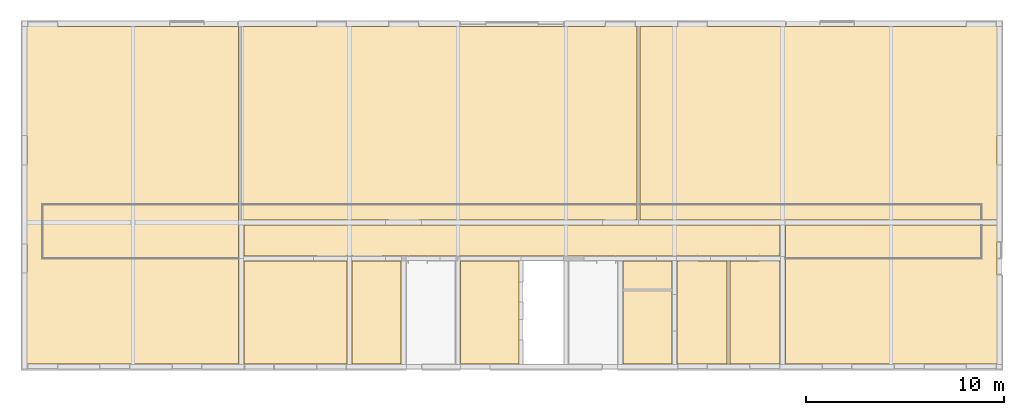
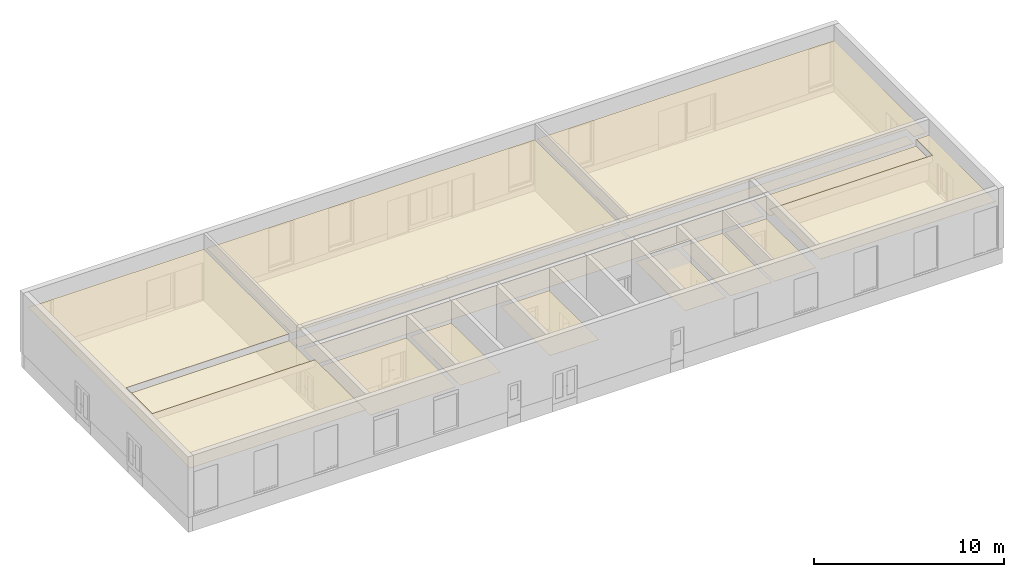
# One storey, part 22 of 22: 15 coverings.
"""IFC4X3 building model written with IfcOpenShell, lengths in millimetres."""

from ifc_helpers import new_model, entity, si_unit, converted_unit, derived_unit, direction, frame, frame_2d, origin, origin_2d_with_axis, place, context, subcontext, project, spatial, polyline, rectangle, outline, extrude, material, layer, layer_set, layer_usage, type_object, element, save


model = new_model("IFC4X3")

# Units and contexts
model_context = context("Model", 3, precision=0.01, world=origin(), true_north=direction((6.12303176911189e-17, 1.0)))
body_context = subcontext(model_context, "Body", "Model", "MODEL_VIEW")
ifc_project = project(units=[si_unit("LENGTHUNIT", "METRE", prefix="MILLI"), si_unit("AREAUNIT", "SQUARE_METRE"), si_unit("VOLUMEUNIT", "CUBIC_METRE"), converted_unit("PLANEANGLEUNIT", "DEGREE", entity("IfcPlaneAngleMeasure", 0.0174532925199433), si_unit("PLANEANGLEUNIT", "RADIAN"), dimensions=[0, 0, 0, 0, 0, 0, 0]), si_unit("MASSUNIT", "GRAM", prefix="KILO"), derived_unit("MASSDENSITYUNIT", [(si_unit("MASSUNIT", "GRAM", prefix="KILO"), 1), (si_unit("LENGTHUNIT", "METRE"), -3)]), derived_unit("IONCONCENTRATIONUNIT", [(si_unit("MASSUNIT", "GRAM", prefix="KILO"), 1), (si_unit("LENGTHUNIT", "METRE"), -3)]), derived_unit("MOMENTOFINERTIAUNIT", [(si_unit("LENGTHUNIT", "METRE"), 4)]), si_unit("TIMEUNIT", "SECOND"), si_unit("FREQUENCYUNIT", "HERTZ"), si_unit("THERMODYNAMICTEMPERATUREUNIT", "DEGREE_CELSIUS"), derived_unit("THERMALTRANSMITTANCEUNIT", [(si_unit("MASSUNIT", "GRAM", prefix="KILO"), 1), (si_unit("THERMODYNAMICTEMPERATUREUNIT", "KELVIN"), -1), (si_unit("TIMEUNIT", "SECOND"), -3)]), derived_unit("THERMALCONDUCTANCEUNIT", [(si_unit("MASSUNIT", "GRAM", prefix="KILO"), 1), (si_unit("THERMODYNAMICTEMPERATUREUNIT", "KELVIN"), -1), (si_unit("TIMEUNIT", "SECOND"), -3), (si_unit("LENGTHUNIT", "METRE"), 1)]), derived_unit("VOLUMETRICFLOWRATEUNIT", [(si_unit("LENGTHUNIT", "METRE", prefix="DECI"), 3), (si_unit("TIMEUNIT", "SECOND"), -1)]), derived_unit("MASSFLOWRATEUNIT", [(si_unit("MASSUNIT", "GRAM", prefix="KILO"), 1), (si_unit("TIMEUNIT", "SECOND"), -1)]), derived_unit("ROTATIONALFREQUENCYUNIT", [(si_unit("TIMEUNIT", "SECOND"), -1)]), si_unit("ELECTRICCURRENTUNIT", "AMPERE"), si_unit("ELECTRICVOLTAGEUNIT", "VOLT"), si_unit("POWERUNIT", "WATT"), si_unit("FORCEUNIT", "NEWTON", prefix="KILO"), si_unit("ILLUMINANCEUNIT", "LUX"), si_unit("LUMINOUSFLUXUNIT", "LUMEN"), si_unit("LUMINOUSINTENSITYUNIT", "CANDELA"), si_unit("ENERGYUNIT", "JOULE"), derived_unit("USERDEFINED", [(si_unit("MASSUNIT", "GRAM", prefix="KILO"), -1), (si_unit("LENGTHUNIT", "METRE"), -2), (si_unit("TIMEUNIT", "SECOND"), 3), (si_unit("LUMINOUSFLUXUNIT", "LUMEN"), 1)]), derived_unit("USERDEFINED", [(si_unit("MASSUNIT", "GRAM", prefix="KILO"), 1), (si_unit("TIMEUNIT", "SECOND"), -3), (si_unit("LENGTHUNIT", "METRE"), 3), (si_unit("ELECTRICCURRENTUNIT", "AMPERE"), -2)]), derived_unit("SOUNDPOWERUNIT", [(si_unit("MASSUNIT", "GRAM", prefix="KILO"), 1), (si_unit("TIMEUNIT", "SECOND"), -3), (si_unit("LENGTHUNIT", "METRE"), 2)]), derived_unit("SOUNDPRESSUREUNIT", [(si_unit("MASSUNIT", "GRAM", prefix="KILO"), 1), (si_unit("LENGTHUNIT", "METRE"), -1), (si_unit("TIMEUNIT", "SECOND"), -2)]), derived_unit("LINEARVELOCITYUNIT", [(si_unit("LENGTHUNIT", "METRE"), 1), (si_unit("TIMEUNIT", "SECOND"), -1)]), si_unit("PRESSUREUNIT", "PASCAL"), derived_unit("USERDEFINED", [(si_unit("MASSUNIT", "GRAM", prefix="KILO"), 1), (si_unit("LENGTHUNIT", "METRE"), -2), (si_unit("TIMEUNIT", "SECOND"), -2)]), derived_unit("LINEARFORCEUNIT", [(si_unit("MASSUNIT", "GRAM", prefix="KILO"), 1), (si_unit("TIMEUNIT", "SECOND"), -2)]), derived_unit("PLANARFORCEUNIT", [(si_unit("MASSUNIT", "GRAM", prefix="KILO"), 1), (si_unit("LENGTHUNIT", "METRE"), -1), (si_unit("TIMEUNIT", "SECOND"), -2)]), derived_unit("SPECIFICHEATCAPACITYUNIT", [(si_unit("THERMODYNAMICTEMPERATUREUNIT", "KELVIN"), -1), (si_unit("LENGTHUNIT", "METRE"), 2), (si_unit("TIMEUNIT", "SECOND"), -2)]), derived_unit("HEATFLUXDENSITYUNIT", [(si_unit("MASSUNIT", "GRAM", prefix="KILO"), 1), (si_unit("TIMEUNIT", "SECOND"), -3)]), derived_unit("HEATINGVALUEUNIT", [(si_unit("LENGTHUNIT", "METRE"), 2), (si_unit("TIMEUNIT", "SECOND"), -2)]), derived_unit("VAPORPERMEABILITYUNIT", [(si_unit("LENGTHUNIT", "METRE"), -1), (si_unit("TIMEUNIT", "SECOND"), 1)]), derived_unit("DYNAMICVISCOSITYUNIT", [(si_unit("MASSUNIT", "GRAM", prefix="KILO"), 1), (si_unit("TIMEUNIT", "SECOND"), -1), (si_unit("LENGTHUNIT", "METRE"), -1)]), derived_unit("THERMALEXPANSIONCOEFFICIENTUNIT", [(si_unit("THERMODYNAMICTEMPERATUREUNIT", "KELVIN"), -1)]), derived_unit("MODULUSOFELASTICITYUNIT", [(si_unit("MASSUNIT", "GRAM", prefix="KILO"), 1), (si_unit("LENGTHUNIT", "METRE"), -1), (si_unit("TIMEUNIT", "SECOND"), -2)]), derived_unit("ISOTHERMALMOISTURECAPACITYUNIT", [(si_unit("MASSUNIT", "GRAM", prefix="KILO"), -1), (si_unit("LENGTHUNIT", "METRE"), 3)]), derived_unit("MOISTUREDIFFUSIVITYUNIT", [(si_unit("TIMEUNIT", "SECOND"), -1), (si_unit("LENGTHUNIT", "METRE"), 2)]), derived_unit("AREADENSITYUNIT", [(si_unit("MASSUNIT", "GRAM", prefix="KILO"), 1), (si_unit("LENGTHUNIT", "METRE"), 2)]), derived_unit("MASSPERLENGTHUNIT", [(si_unit("MASSUNIT", "GRAM", prefix="KILO"), 1), (si_unit("LENGTHUNIT", "METRE"), -1)]), derived_unit("THERMALRESISTANCEUNIT", [(si_unit("MASSUNIT", "GRAM", prefix="KILO"), -1), (si_unit("TIMEUNIT", "SECOND"), 3), (si_unit("THERMODYNAMICTEMPERATUREUNIT", "KELVIN"), 1)]), derived_unit("ACCELERATIONUNIT", [(si_unit("LENGTHUNIT", "METRE"), 1), (si_unit("TIMEUNIT", "SECOND"), -2)]), derived_unit("ANGULARVELOCITYUNIT", [(si_unit("TIMEUNIT", "SECOND"), -1), (si_unit("PLANEANGLEUNIT", "RADIAN"), 1)]), derived_unit("LINEARSTIFFNESSUNIT", [(si_unit("MASSUNIT", "GRAM", prefix="KILO"), 1), (si_unit("TIMEUNIT", "SECOND"), -2)]), derived_unit("WARPINGCONSTANTUNIT", [(si_unit("LENGTHUNIT", "METRE"), 6)]), derived_unit("LINEARMOMENTUNIT", [(si_unit("MASSUNIT", "GRAM", prefix="KILO"), 1), (si_unit("LENGTHUNIT", "METRE"), 1), (si_unit("TIMEUNIT", "SECOND"), -2)]), derived_unit("TORQUEUNIT", [(si_unit("MASSUNIT", "GRAM", prefix="KILO"), 1), (si_unit("LENGTHUNIT", "METRE"), 2), (si_unit("TIMEUNIT", "SECOND"), -2)])], contexts=[model_context])

# Site, building, storey
site_placement = place(None, origin())
site = spatial("IfcSite", under=ifc_project, at=site_placement, Name="Default", CompositionType="ELEMENT")
building_placement = place(site_placement, origin())
building = spatial("IfcBuilding", under=site, at=building_placement, Name="事務所ビル", CompositionType="ELEMENT")
storey_placement = place(building_placement, origin())
storey = spatial("IfcBuildingStorey", under=building, at=storey_placement, Name="1FL", CompositionType="ELEMENT", Elevation=0.0)

# Covering
ifc_material = material(Name="<Unnamed>")
ifc_layer = layer(ifc_material, 10.0, Name="Layer")
ifc_layer_set = layer_set([ifc_layer], Name="天井:(仕上)GB-Rt12.5+DR t12")
ifc_layer_usage_1 = layer_usage(ifc_layer_set, "AXIS3", "NEGATIVE", 10.0)
covering_type = type_object("IfcCoveringType", Name="天井:(仕上)GB-Rt12.5+DR t12", PredefinedType="CEILING")
covering_1_placement = place(storey_placement, frame((910.0, 5460.0, 2850.0)))
element("IfcCovering", 1, at=covering_1_placement, inside=storey, type_object=covering_type, material=ifc_layer_usage_1, Name="天井:(仕上)GB-Rt12.5+DR t12", ObjectType="天井:(仕上)GB-Rt12.5+DR t12", PredefinedType="CEILING", context=body_context, shape_type="SweptSolid", body=[
    extrude(rectangle(XDim=9877.99999999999, YDim=2730.00000000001, at=frame_2d((0.0, 5.6843418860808e-13), x_axis=(1.0, 0.0))), frame((4939.0, 1365.0, 0.0)), (0.0, 0.0, 1.0), 9.99999999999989),
])

# Space
space_1_placement = place(storey_placement, origin())
space_1 = spatial("IfcSpace", under=storey, at=space_1_placement, Name="82", CompositionType="ELEMENT", PredefinedType="NOTDEFINED")

# Covering
ifc_layer_usage_2 = layer_usage(ifc_layer_set, "AXIS3", "NEGATIVE", 0.0)
covering_2_placement = place(space_1_placement, frame((132.0, 132.0, 3280.0)))
element("IfcCovering", 2, at=covering_2_placement, inside=space_1, type_object=covering_type, material=ifc_layer_usage_2, Name="天井:(仕上)GB-Rt12.5+DR t12", ObjectType="天井:(仕上)GB-Rt12.5+DR t12", PredefinedType="CEILING", context=body_context, shape_type="SweptSolid", body=[
    extrude(outline(polyline([(-5133.5, -9411.75), (5522.49999999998, -9411.75), (5522.50000000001, 7599.24999999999), (-5133.49999999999, 7599.25000000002), (-5133.49999999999, 2271.25000000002), (4744.5, 2271.24999999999), (4744.49999999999, -458.750000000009), (-5133.5, -458.750000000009), (-5133.5, -9411.75)])), frame((5522.50000000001, 7599.25000000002, 0.0), z_axis=(0.0, 0.0, 1.0), x_axis=(-1.0, 0.0, 0.0)), (0.0, 0.0, 1.0), 9.99999999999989),
])

# Space
space_2_placement = place(storey_placement, origin())
space_2 = spatial("IfcSpace", under=storey, at=space_2_placement, Name="83", CompositionType="ELEMENT", PredefinedType="NOTDEFINED")

# Covering
ifc_layer_usage_3 = layer_usage(ifc_layer_set, "AXIS3", "NEGATIVE", 0.0)
covering_3_placement = place(space_2_placement, frame((10938.0, 8190.0, 3280.0)))
element("IfcCovering", 3, at=covering_3_placement, inside=space_2, type_object=covering_type, material=ifc_layer_usage_3, Name="天井:(仕上)GB-Rt12.5+DR t12", ObjectType="天井:(仕上)GB-Rt12.5+DR t12", PredefinedType="CEILING", context=body_context, shape_type="SweptSolid", body=[
    extrude(rectangle(XDim=8952.99999999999, YDim=19927.0, at=frame_2d((-1.63709046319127e-11, 0.0), x_axis=(1.0, 0.0))), frame((9963.50000000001, 4476.50000000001, 0.0), z_axis=(0.0, 0.0, 1.0), x_axis=(0.0, 1.0, 0.0)), (0.0, 0.0, 1.0), 9.99999999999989),
])

# Space
space_3_placement = place(storey_placement, origin())
space_3 = spatial("IfcSpace", under=storey, at=space_3_placement, Name="84", CompositionType="ELEMENT", PredefinedType="NOTDEFINED")

# Covering
ifc_layer_usage_4 = layer_usage(ifc_layer_set, "AXIS3", "NEGATIVE", 0.0)
covering_4_placement = place(space_3_placement, frame((31015.0, 7412.0, 3280.0)))
element("IfcCovering", 4, at=covering_4_placement, inside=space_3, type_object=covering_type, material=ifc_layer_usage_4, Name="天井:(仕上)GB-Rt12.5+DR t12", ObjectType="天井:(仕上)GB-Rt12.5+DR t12", PredefinedType="CEILING", context=body_context, shape_type="SweptSolid", body=[
    extrude(outline(polyline([(2725.0, 5479.0), (3503.0, 5479.0), (3503.0, 6257.0), (-6228.0, 6257.0), (-6228.0, -11736.0), (2725.0, -11736.0), (2725.0, 5479.0)])), frame((11736.0, 3503.0, 0.0), z_axis=(0.0, 0.0, 1.0), x_axis=(0.0, -1.0, 0.0)), (0.0, 0.0, 1.0), 9.99999999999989),
])

# Space
space_4_placement = place(storey_placement, origin())
space_4 = spatial("IfcSpace", under=storey, at=space_4_placement, Name="91", CompositionType="ELEMENT", PredefinedType="NOTDEFINED")

# Coverings
ifc_layer_usage_5 = layer_usage(ifc_layer_set, "AXIS3", "NEGATIVE", 0.0)
covering_5_placement = place(space_4_placement, frame((38352.0, 132.0, 3280.0)))
element("IfcCovering", 5, at=covering_5_placement, inside=space_4, type_object=covering_type, material=ifc_layer_usage_5, Name="天井:(仕上)GB-Rt12.5+DR t12", ObjectType="天井:(仕上)GB-Rt12.5+DR t12", PredefinedType="CEILING", context=body_context, shape_type="SweptSolid", body=[
    extrude(outline(polyline([(-3033.33333333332, -1213.33333333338), (6844.66666666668, -1213.33333333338), (6844.66666666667, 4114.66666666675), (-3811.33333333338, 4114.66666666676), (-3811.33333333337, -2901.33333333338), (-3033.33333333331, -2901.33333333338), (-3033.33333333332, -1213.33333333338)])), frame((6844.66666666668, 4114.66666666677, 0.0), z_axis=(0.0, 0.0, 1.0), x_axis=(-1.0, 0.0, 0.0)), (0.0, 0.0, 1.0), 9.99999999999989),
])
ifc_layer_usage_6 = layer_usage(ifc_layer_set, "AXIS3", "NEGATIVE", 0.0)
covering_6_placement = place(storey_placement, frame((10938.0, 7412.0, 2850.0)))
element("IfcCovering", 6, at=covering_6_placement, inside=storey, type_object=covering_type, material=ifc_layer_usage_6, Name="天井:(仕上)GB-Rt12.5+DR t12", ObjectType="天井:(仕上)GB-Rt12.5+DR t12", PredefinedType="CEILING", context=body_context, shape_type="SweptSolid", body=[
    extrude(rectangle(XDim=19927.0, YDim=778.000000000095, at=frame_2d((1.81898940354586e-12, -5.40012479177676e-13), x_axis=(1.0, 0.0))), frame((9963.5, 389.0, 0.0), z_axis=(0.0, 0.0, 1.0), x_axis=(-1.0, 0.0, 0.0)), (0.0, 0.0, 1.0), 9.99999999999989),
])
ifc_layer_usage_7 = layer_usage(ifc_layer_set, "AXIS3", "NEGATIVE", 0.0)
covering_7_placement = place(storey_placement, frame((31015.0, 7412.0, 2850.0)))
element("IfcCovering", 7, at=covering_7_placement, inside=storey, type_object=covering_type, material=ifc_layer_usage_7, Name="天井:(仕上)GB-Rt12.5+DR t12", ObjectType="天井:(仕上)GB-Rt12.5+DR t12", PredefinedType="CEILING", context=body_context, shape_type="SweptSolid", body=[
    extrude(rectangle(XDim=17215.0, YDim=778.000000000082, at=frame_2d((1.81898940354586e-12, 5.40012479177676e-13), x_axis=(1.0, 0.0))), frame((8607.5, 389.0, 0.0), z_axis=(0.0, 0.0, 1.0), x_axis=(-1.0, 0.0, 0.0)), (0.0, 0.0, 1.0), 9.99999999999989),
])
ifc_layer_usage_8 = layer_usage(ifc_layer_set, "AXIS3", "NEGATIVE", 0.0)
covering_8_placement = place(storey_placement, frame((38352.0, 5460.0, 2850.0)))
element("IfcCovering", 8, at=covering_8_placement, inside=storey, type_object=covering_type, material=ifc_layer_usage_8, Name="天井:(仕上)GB-Rt12.5+DR t12", ObjectType="天井:(仕上)GB-Rt12.5+DR t12", PredefinedType="CEILING", context=body_context, shape_type="SweptSolid", body=[
    extrude(rectangle(XDim=9877.99999999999, YDim=1688.00000000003, at=origin_2d_with_axis()), frame((4939.0, 844.0, 0.0)), (0.0, 0.0, 1.0), 9.99999999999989),
])

# Space
space_5_placement = place(storey_placement, origin())
space_5 = spatial("IfcSpace", under=storey, at=space_5_placement, Name="86", CompositionType="ELEMENT", PredefinedType="NOTDEFINED")

# Covering
ifc_layer_usage_9 = layer_usage(ifc_layer_set, "AXIS3", "NEGATIVE", 0.0)
covering_9_placement = place(space_5_placement, frame((11052.0, 5592.0, 2850.0)))
element("IfcCovering", 9, at=covering_9_placement, inside=space_5, type_object=covering_type, material=ifc_layer_usage_9, Name="天井:(仕上)GB-Rt12.5+DR t12", ObjectType="天井:(仕上)GB-Rt12.5+DR t12", PredefinedType="CEILING", context=body_context, shape_type="SweptSolid", body=[
    extrude(rectangle(XDim=1555.99999999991, YDim=27036.0, at=frame_2d((5.11590769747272e-13, -3.63797880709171e-12), x_axis=(1.0, 0.0))), frame((13518.0, 778.0, 0.0), z_axis=(0.0, 0.0, 1.0), x_axis=(0.0, -1.0, 0.0)), (0.0, 0.0, 1.0), 9.99999999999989),
])

# Space
space_6_placement = place(storey_placement, origin())
space_6 = spatial("IfcSpace", under=storey, at=space_6_placement, Name="85", CompositionType="ELEMENT", PredefinedType="NOTDEFINED")

# Covering
ifc_layer_usage_10 = layer_usage(ifc_layer_set, "AXIS3", "NEGATIVE", 0.0)
covering_10_placement = place(space_6_placement, frame((11052.0, 132.0, 2850.0)))
element("IfcCovering", 10, at=covering_10_placement, inside=space_6, type_object=covering_type, material=ifc_layer_usage_10, Name="天井:(仕上)GB-Rt12.5+DR t12", ObjectType="天井:(仕上)GB-Rt12.5+DR t12", PredefinedType="CEILING", context=body_context, shape_type="SweptSolid", body=[
    extrude(rectangle(XDim=5196.0, YDim=5196.00000000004, at=frame_2d((0.0, -6.82121026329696e-13), x_axis=(1.0, 0.0))), frame((2598.0, 2598.0, 0.0), z_axis=(0.0, 0.0, 1.0), x_axis=(-1.0, 0.0, 0.0)), (0.0, 0.0, 1.0), 9.99999999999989),
])

# Space
space_7_placement = place(storey_placement, origin())
space_7 = spatial("IfcSpace", under=storey, at=space_7_placement, Name="87", CompositionType="ELEMENT", PredefinedType="NOTDEFINED")

# Covering
ifc_layer_usage_11 = layer_usage(ifc_layer_set, "AXIS3", "NEGATIVE", 0.0)
covering_11_placement = place(space_7_placement, frame((16512.0, 132.0, 2850.0)))
element("IfcCovering", 11, at=covering_11_placement, inside=space_7, type_object=covering_type, material=ifc_layer_usage_11, Name="天井:(仕上)GB-Rt12.5+DR t12", ObjectType="天井:(仕上)GB-Rt12.5+DR t12", PredefinedType="CEILING", context=body_context, shape_type="SweptSolid", body=[
    extrude(rectangle(XDim=2466.0, YDim=5196.00000000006, at=frame_2d((-1.13686837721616e-12, 0.0), x_axis=(1.0, 0.0))), frame((1233.0, 2598.0, 0.0), z_axis=(0.0, 0.0, 1.0), x_axis=(-1.0, 0.0, 0.0)), (0.0, 0.0, 1.0), 9.99999999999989),
])

# Space
space_8_placement = place(storey_placement, origin())
space_8 = spatial("IfcSpace", under=storey, at=space_8_placement, Name="88", CompositionType="ELEMENT", PredefinedType="NOTDEFINED")

# Coverings
ifc_layer_usage_12 = layer_usage(ifc_layer_set, "AXIS3", "NEGATIVE", 0.0)
covering_12_placement = place(space_8_placement, frame((21972.0, 132.0, 2850.0)))
element("IfcCovering", 12, at=covering_12_placement, inside=space_8, type_object=covering_type, material=ifc_layer_usage_12, Name="天井:(仕上)GB-Rt12.5+DR t12", ObjectType="天井:(仕上)GB-Rt12.5+DR t12", PredefinedType="CEILING", context=body_context, shape_type="SweptSolid", body=[
    extrude(rectangle(XDim=2947.99999999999, YDim=5196.00000000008, at=frame_2d((2.1600499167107e-12, 0.0), x_axis=(1.0, 0.0))), frame((1474.0, 2598.0, 0.0), z_axis=(0.0, 0.0, 1.0), x_axis=(-1.0, 0.0, 0.0)), (0.0, 0.0, 1.0), 9.99999999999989),
])
ifc_layer_usage_13 = layer_usage(ifc_layer_set, "AXIS3", "NEGATIVE", 0.0)
covering_13_placement = place(storey_placement, frame((30162.0, 132.0, 2850.0)))
element("IfcCovering", 13, at=covering_13_placement, inside=storey, type_object=covering_type, material=ifc_layer_usage_13, Name="天井:(仕上)GB-Rt12.5+DR t12", ObjectType="天井:(仕上)GB-Rt12.5+DR t12", PredefinedType="CEILING", context=body_context, shape_type="SweptSolid", body=[
    extrude(rectangle(XDim=2465.99999999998, YDim=5196.00000000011, at=frame_2d((-2.1600499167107e-12, -6.82121026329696e-13), x_axis=(1.0, 0.0))), frame((1233.0, 2598.0, 0.0), z_axis=(0.0, 0.0, 1.0), x_axis=(-1.0, 0.0, 0.0)), (0.0, 0.0, 1.0), 9.99999999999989),
])

# Space
space_9_placement = place(storey_placement, origin())
space_9 = spatial("IfcSpace", under=storey, at=space_9_placement, Name="90", CompositionType="ELEMENT", PredefinedType="NOTDEFINED")

# Covering
ifc_layer_usage_14 = layer_usage(ifc_layer_set, "AXIS3", "NEGATIVE", 0.0)
covering_14_placement = place(space_9_placement, frame((32892.0, 132.0, 2850.0)))
element("IfcCovering", 14, at=covering_14_placement, inside=space_9, type_object=covering_type, material=ifc_layer_usage_14, Name="天井:(仕上)GB-Rt12.5+DR t12", ObjectType="天井:(仕上)GB-Rt12.5+DR t12", PredefinedType="CEILING", context=body_context, shape_type="SweptSolid", body=[
    extrude(rectangle(XDim=2522.99999999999, YDim=5196.00000000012, at=frame_2d((-2.1600499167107e-12, 0.0), x_axis=(1.0, 0.0))), frame((1261.5, 2598.0, 0.0), z_axis=(0.0, 0.0, 1.0), x_axis=(-1.0, 0.0, 0.0)), (0.0, 0.0, 1.0), 9.99999999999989),
])

# Space
space_10_placement = place(storey_placement, origin())
space_10 = spatial("IfcSpace", under=storey, at=space_10_placement, Name="89", CompositionType="ELEMENT", PredefinedType="NOTDEFINED")

# Covering
ifc_layer_usage_15 = layer_usage(ifc_layer_set, "AXIS3", "NEGATIVE", 0.0)
covering_15_placement = place(space_10_placement, frame((35565.0, 132.0, 2850.0)))
element("IfcCovering", 15, at=covering_15_placement, inside=space_10, type_object=covering_type, material=ifc_layer_usage_15, Name="天井:(仕上)GB-Rt12.5+DR t12", ObjectType="天井:(仕上)GB-Rt12.5+DR t12", PredefinedType="CEILING", context=body_context, shape_type="SweptSolid", body=[
    extrude(rectangle(XDim=2522.99999999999, YDim=5196.00000000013, at=frame_2d((2.1600499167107e-12, 6.82121026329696e-13), x_axis=(1.0, 0.0))), frame((1261.49999999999, 2598.0, 0.0), z_axis=(0.0, 0.0, 1.0), x_axis=(-1.0, 0.0, 0.0)), (0.0, 0.0, 1.0), 9.99999999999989),
])

save(model, "model.ifc")
